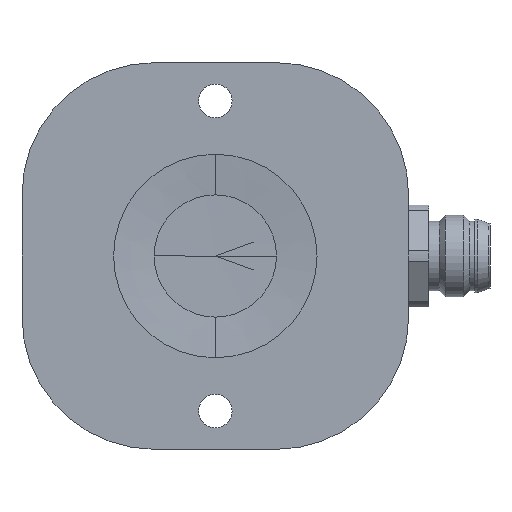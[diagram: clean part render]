
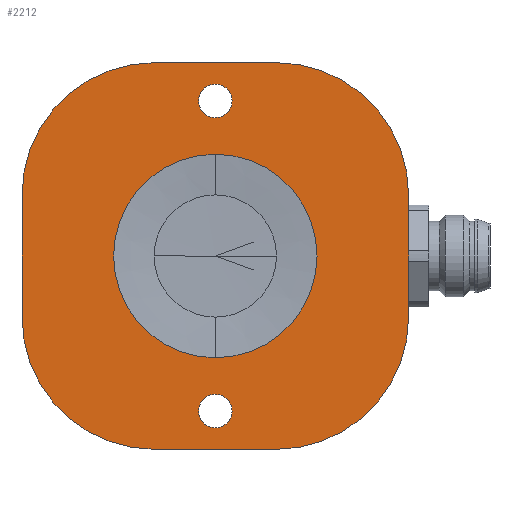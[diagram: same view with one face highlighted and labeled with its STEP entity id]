
A CAD part, front view. The second image highlights one B-rep face of the part: STEP entity #2212.
In plain terms, the highlighted planar face has unit normal (0, -1, 0).
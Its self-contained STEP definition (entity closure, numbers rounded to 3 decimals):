
#231 = CARTESIAN_POINT ( 'NONE',  ( 19., 0., -32.6 ) ) ;
#455 = VERTEX_POINT ( 'NONE', #7836 ) ;
#482 = VERTEX_POINT ( 'NONE', #12683 ) ;
#733 = DIRECTION ( 'NONE',  ( 0., 0., 1. ) ) ;
#738 = CARTESIAN_POINT ( 'NONE',  ( 38., 0., 0. ) ) ;
#977 = AXIS2_PLACEMENT_3D ( 'NONE', #18973, #11671, #16108 ) ;
#1325 = DIRECTION ( 'NONE',  ( 0., 0., 1. ) ) ;
#1369 = DIRECTION ( 'NONE',  ( 1., 0., 0. ) ) ;
#1371 = LINE ( 'NONE', #738, #1608 ) ;
#1608 = VECTOR ( 'NONE', #3672, 1000. ) ;
#1859 = EDGE_CURVE ( 'NONE', #15011, #10404, #7387, .T. ) ;
#1882 = EDGE_CURVE ( 'NONE', #6988, #3442, #7839, .T. ) ;
#1958 = CARTESIAN_POINT ( 'NONE',  ( 25., 0., -13. ) ) ;
#2088 = ORIENTED_EDGE ( 'NONE', *, *, #12774, .T. ) ;
#2212 = ADVANCED_FACE ( 'NONE', ( #7607, #18598, #6043, #4393 ), #8717, .F. ) ;
#2242 = ORIENTED_EDGE ( 'NONE', *, *, #9037, .T. ) ;
#2323 = VERTEX_POINT ( 'NONE', #231 ) ;
#2355 = CIRCLE ( 'NONE', #7263, 1.65 ) ;
#2434 = EDGE_LOOP ( 'NONE', ( #4061, #3321 ) ) ;
#2480 = VERTEX_POINT ( 'NONE', #6793 ) ;
#2675 = ORIENTED_EDGE ( 'NONE', *, *, #1859, .T. ) ;
#2727 = CIRCLE ( 'NONE', #2922, 13. ) ;
#2801 = AXIS2_PLACEMENT_3D ( 'NONE', #16448, #6273, #13466 ) ;
#2862 = CARTESIAN_POINT ( 'NONE',  ( 13., 0., -13. ) ) ;
#2922 = AXIS2_PLACEMENT_3D ( 'NONE', #12603, #9680, #12417 ) ;
#3081 = DIRECTION ( 'NONE',  ( 0., 0., 1. ) ) ;
#3321 = ORIENTED_EDGE ( 'NONE', *, *, #16773, .T. ) ;
#3338 = VERTEX_POINT ( 'NONE', #6794 ) ;
#3442 = VERTEX_POINT ( 'NONE', #14030 ) ;
#3458 = EDGE_CURVE ( 'NONE', #482, #15515, #13983, .T. ) ;
#3462 = CARTESIAN_POINT ( 'NONE',  ( 19., 0., -35.9 ) ) ;
#3491 = CARTESIAN_POINT ( 'NONE',  ( 38., 0., -25. ) ) ;
#3632 = CIRCLE ( 'NONE', #7018, 1.65 ) ;
#3672 = DIRECTION ( 'NONE',  ( 0., 0., -1. ) ) ;
#3684 = AXIS2_PLACEMENT_3D ( 'NONE', #8868, #7515, #17755 ) ;
#3752 = AXIS2_PLACEMENT_3D ( 'NONE', #12138, #10787, #10914 ) ;
#3774 = CARTESIAN_POINT ( 'NONE',  ( 19., 0., -34.25 ) ) ;
#3825 = EDGE_CURVE ( 'NONE', #2480, #14870, #1371, .T. ) ;
#3965 = CARTESIAN_POINT ( 'NONE',  ( 19., 0., -2.1 ) ) ;
#4061 = ORIENTED_EDGE ( 'NONE', *, *, #1882, .T. ) ;
#4247 = VERTEX_POINT ( 'NONE', #18811 ) ;
#4383 = CARTESIAN_POINT ( 'NONE',  ( 0., 0., 0. ) ) ;
#4393 = FACE_OUTER_BOUND ( 'NONE', #10043, .T. ) ;
#4528 = DIRECTION ( 'NONE',  ( 0., 0., 1. ) ) ;
#4713 = EDGE_CURVE ( 'NONE', #9105, #2323, #3632, .T. ) ;
#4775 = AXIS2_PLACEMENT_3D ( 'NONE', #1958, #15159, #6888 ) ;
#5220 = LINE ( 'NONE', #7378, #13010 ) ;
#5231 = CARTESIAN_POINT ( 'NONE',  ( 19., 0., -34.25 ) ) ;
#5777 = ORIENTED_EDGE ( 'NONE', *, *, #3825, .F. ) ;
#5908 = CARTESIAN_POINT ( 'NONE',  ( 19., 0., -19. ) ) ;
#6005 = VERTEX_POINT ( 'NONE', #11632 ) ;
#6010 = VECTOR ( 'NONE', #14478, 1000. ) ;
#6043 = FACE_BOUND ( 'NONE', #12081, .T. ) ;
#6273 = DIRECTION ( 'NONE',  ( 0., 1., 0. ) ) ;
#6491 = EDGE_CURVE ( 'NONE', #4247, #455, #5220, .T. ) ;
#6581 = DIRECTION ( 'NONE',  ( 0., 1., 0. ) ) ;
#6590 = DIRECTION ( 'NONE',  ( 0., 1., 0. ) ) ;
#6793 = CARTESIAN_POINT ( 'NONE',  ( 38., 0., -13. ) ) ;
#6794 = CARTESIAN_POINT ( 'NONE',  ( 13., 0., 0. ) ) ;
#6888 = DIRECTION ( 'NONE',  ( 0., 0., 1. ) ) ;
#6988 = VERTEX_POINT ( 'NONE', #3965 ) ;
#7018 = AXIS2_PLACEMENT_3D ( 'NONE', #5231, #6581, #733 ) ;
#7263 = AXIS2_PLACEMENT_3D ( 'NONE', #3774, #11224, #9626 ) ;
#7340 = DIRECTION ( 'NONE',  ( 0., 1., 0. ) ) ;
#7378 = CARTESIAN_POINT ( 'NONE',  ( 0., 0., -38. ) ) ;
#7387 = CIRCLE ( 'NONE', #14214, 10. ) ;
#7515 = DIRECTION ( 'NONE',  ( 0., 1., 0. ) ) ;
#7607 = FACE_BOUND ( 'NONE', #8789, .T. ) ;
#7836 = CARTESIAN_POINT ( 'NONE',  ( 0., 0., -13. ) ) ;
#7839 = CIRCLE ( 'NONE', #2801, 1.65 ) ;
#8218 = ORIENTED_EDGE ( 'NONE', *, *, #6491, .F. ) ;
#8717 = PLANE ( 'NONE',  #977 ) ;
#8789 = EDGE_LOOP ( 'NONE', ( #11899, #16611 ) ) ;
#8868 = CARTESIAN_POINT ( 'NONE',  ( 19., 0., -3.75 ) ) ;
#9021 = LINE ( 'NONE', #4383, #17263 ) ;
#9037 = EDGE_CURVE ( 'NONE', #4247, #15515, #11400, .T. ) ;
#9044 = AXIS2_PLACEMENT_3D ( 'NONE', #2862, #11712, #1325 ) ;
#9105 = VERTEX_POINT ( 'NONE', #3462 ) ;
#9626 = DIRECTION ( 'NONE',  ( 0., 0., 1. ) ) ;
#9680 = DIRECTION ( 'NONE',  ( 0., -1., 0. ) ) ;
#9735 = EDGE_CURVE ( 'NONE', #3338, #455, #10100, .T. ) ;
#10043 = EDGE_LOOP ( 'NONE', ( #12161, #11608, #5777, #2088, #17242, #10880, #8218, #2242 ) ) ;
#10100 = CIRCLE ( 'NONE', #9044, 13. ) ;
#10172 = CARTESIAN_POINT ( 'NONE',  ( 19., 0., -9. ) ) ;
#10404 = VERTEX_POINT ( 'NONE', #10445 ) ;
#10445 = CARTESIAN_POINT ( 'NONE',  ( 19., 0., -29. ) ) ;
#10787 = DIRECTION ( 'NONE',  ( 0., -1., 0. ) ) ;
#10880 = ORIENTED_EDGE ( 'NONE', *, *, #9735, .T. ) ;
#10914 = DIRECTION ( 'NONE',  ( 0., 0., 1. ) ) ;
#11224 = DIRECTION ( 'NONE',  ( 0., 1., 0. ) ) ;
#11400 = CIRCLE ( 'NONE', #3752, 13. ) ;
#11536 = EDGE_CURVE ( 'NONE', #482, #14870, #2727, .T. ) ;
#11608 = ORIENTED_EDGE ( 'NONE', *, *, #11536, .T. ) ;
#11632 = CARTESIAN_POINT ( 'NONE',  ( 25., 0., 0. ) ) ;
#11671 = DIRECTION ( 'NONE',  ( 0., 1., 0. ) ) ;
#11712 = DIRECTION ( 'NONE',  ( 0., -1., 0. ) ) ;
#11899 = ORIENTED_EDGE ( 'NONE', *, *, #17081, .T. ) ;
#12081 = EDGE_LOOP ( 'NONE', ( #2675, #16268 ) ) ;
#12138 = CARTESIAN_POINT ( 'NONE',  ( 13., 0., -25. ) ) ;
#12161 = ORIENTED_EDGE ( 'NONE', *, *, #3458, .F. ) ;
#12417 = DIRECTION ( 'NONE',  ( 0., 0., 1. ) ) ;
#12461 = CIRCLE ( 'NONE', #13877, 10. ) ;
#12603 = CARTESIAN_POINT ( 'NONE',  ( 25., 0., -25. ) ) ;
#12632 = CARTESIAN_POINT ( 'NONE',  ( 13., 0., -38. ) ) ;
#12683 = CARTESIAN_POINT ( 'NONE',  ( 25., 0., -38. ) ) ;
#12774 = EDGE_CURVE ( 'NONE', #2480, #6005, #16255, .T. ) ;
#13010 = VECTOR ( 'NONE', #3081, 1000. ) ;
#13466 = DIRECTION ( 'NONE',  ( 0., 0., 1. ) ) ;
#13741 = CARTESIAN_POINT ( 'NONE',  ( 19., 0., -19. ) ) ;
#13875 = DIRECTION ( 'NONE',  ( 0., 0., 1. ) ) ;
#13877 = AXIS2_PLACEMENT_3D ( 'NONE', #13741, #6590, #13875 ) ;
#13983 = LINE ( 'NONE', #14345, #6010 ) ;
#14030 = CARTESIAN_POINT ( 'NONE',  ( 19., 0., -5.4 ) ) ;
#14214 = AXIS2_PLACEMENT_3D ( 'NONE', #5908, #7340, #4528 ) ;
#14345 = CARTESIAN_POINT ( 'NONE',  ( 38., 0., -38. ) ) ;
#14478 = DIRECTION ( 'NONE',  ( -1., 0., 0. ) ) ;
#14870 = VERTEX_POINT ( 'NONE', #3491 ) ;
#15011 = VERTEX_POINT ( 'NONE', #10172 ) ;
#15159 = DIRECTION ( 'NONE',  ( 0., -1., 0. ) ) ;
#15515 = VERTEX_POINT ( 'NONE', #12632 ) ;
#15694 = CIRCLE ( 'NONE', #3684, 1.65 ) ;
#15932 = EDGE_CURVE ( 'NONE', #10404, #15011, #12461, .T. ) ;
#16108 = DIRECTION ( 'NONE',  ( 0., 0., 1. ) ) ;
#16255 = CIRCLE ( 'NONE', #4775, 13. ) ;
#16268 = ORIENTED_EDGE ( 'NONE', *, *, #15932, .T. ) ;
#16448 = CARTESIAN_POINT ( 'NONE',  ( 19., 0., -3.75 ) ) ;
#16611 = ORIENTED_EDGE ( 'NONE', *, *, #4713, .T. ) ;
#16644 = EDGE_CURVE ( 'NONE', #3338, #6005, #9021, .T. ) ;
#16773 = EDGE_CURVE ( 'NONE', #3442, #6988, #15694, .T. ) ;
#17081 = EDGE_CURVE ( 'NONE', #2323, #9105, #2355, .T. ) ;
#17242 = ORIENTED_EDGE ( 'NONE', *, *, #16644, .F. ) ;
#17263 = VECTOR ( 'NONE', #1369, 1000. ) ;
#17755 = DIRECTION ( 'NONE',  ( 0., 0., 1. ) ) ;
#18598 = FACE_BOUND ( 'NONE', #2434, .T. ) ;
#18811 = CARTESIAN_POINT ( 'NONE',  ( 0., 0., -25. ) ) ;
#18973 = CARTESIAN_POINT ( 'NONE',  ( 0., 0., 0. ) ) ;
